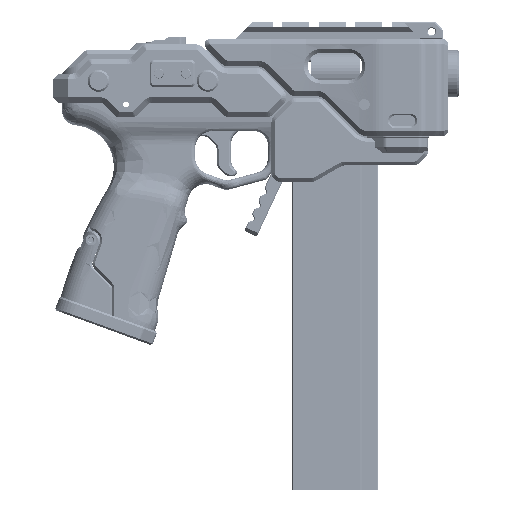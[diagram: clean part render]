
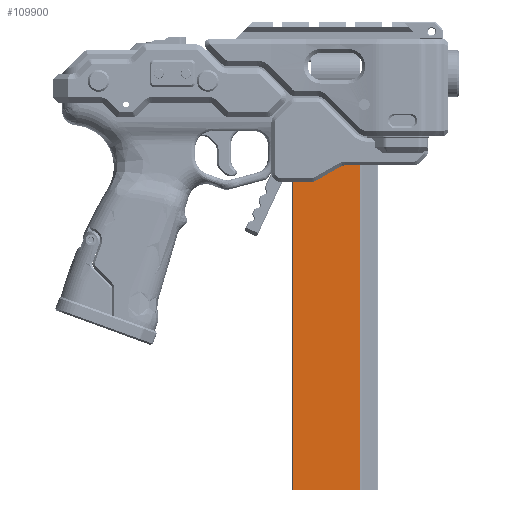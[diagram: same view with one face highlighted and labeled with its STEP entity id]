
A CAD part, left-side view. The second image highlights one B-rep face of the part: STEP entity #109900.
In plain terms, the highlighted planar face has unit normal (-1, 0, 0).
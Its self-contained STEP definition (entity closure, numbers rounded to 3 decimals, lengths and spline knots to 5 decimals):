
#4856=CIRCLE('',#118757,0.00508);
#18416=ORIENTED_EDGE('',*,*,#46447,.F.);
#18417=ORIENTED_EDGE('',*,*,#46425,.T.);
#18418=ORIENTED_EDGE('',*,*,#46446,.F.);
#18419=ORIENTED_EDGE('',*,*,#46420,.T.);
#18420=ORIENTED_EDGE('',*,*,#46445,.F.);
#18421=ORIENTED_EDGE('',*,*,#46443,.F.);
#18422=ORIENTED_EDGE('',*,*,#46441,.F.);
#18423=ORIENTED_EDGE('',*,*,#46440,.F.);
#18424=ORIENTED_EDGE('',*,*,#46439,.F.);
#18425=ORIENTED_EDGE('',*,*,#46450,.F.);
#46420=EDGE_CURVE('',#61015,#61014,#71185,.T.);
#46425=EDGE_CURVE('',#61020,#61019,#71189,.T.);
#46439=EDGE_CURVE('',#61026,#61006,#71200,.T.);
#46440=EDGE_CURVE('',#61006,#61001,#71201,.T.);
#46441=EDGE_CURVE('',#61001,#61027,#71202,.T.);
#46443=EDGE_CURVE('',#61027,#61028,#71204,.T.);
#46445=EDGE_CURVE('',#61028,#61014,#71205,.T.);
#46446=EDGE_CURVE('',#61015,#61019,#71206,.T.);
#46447=EDGE_CURVE('',#61020,#61029,#71207,.T.);
#46450=EDGE_CURVE('',#61029,#61026,#4856,.T.);
#61001=VERTEX_POINT('',#187533);
#61006=VERTEX_POINT('',#187548);
#61014=VERTEX_POINT('',#187578);
#61015=VERTEX_POINT('',#187580);
#61019=VERTEX_POINT('',#187589);
#61020=VERTEX_POINT('',#187591);
#61026=VERTEX_POINT('',#187618);
#61027=VERTEX_POINT('',#187624);
#61028=VERTEX_POINT('',#187628);
#61029=VERTEX_POINT('',#187636);
#71185=LINE('',#187579,#81551);
#71189=LINE('',#187590,#81555);
#71200=LINE('',#187619,#81566);
#71201=LINE('',#187621,#81567);
#71202=LINE('',#187623,#81568);
#71204=LINE('',#187627,#81570);
#71205=LINE('',#187631,#81571);
#71206=LINE('',#187633,#81572);
#71207=LINE('',#187635,#81573);
#81551=VECTOR('',#134903,1.);
#81555=VECTOR('',#134911,1.);
#81566=VECTOR('',#134936,1.);
#81567=VECTOR('',#134939,1.);
#81568=VECTOR('',#134942,1.);
#81570=VECTOR('',#134946,1.);
#81571=VECTOR('',#134951,1.);
#81572=VECTOR('',#134954,1.);
#81573=VECTOR('',#134957,1.);
#91325=EDGE_LOOP('',(#18416,#18417,#18418,#18419,#18420,#18421,#18422,#18423,
#18424,#18425));
#98975=FACE_BOUND('',#91325,.T.);
#105470=PLANE('',#118758);
#109900=ADVANCED_FACE('',(#98975),#105470,.F.);
#118757=AXIS2_PLACEMENT_3D('',#187653,#134960,#134961);
#118758=AXIS2_PLACEMENT_3D('',#187654,#134962,#134963);
#134903=DIRECTION('',(0.,0.,-1.));
#134911=DIRECTION('',(0.,0.,1.));
#134936=DIRECTION('',(0.,0.,1.));
#134939=DIRECTION('',(0.,0.,1.));
#134942=DIRECTION('',(0.,-1.,0.));
#134946=DIRECTION('',(0.,0.,-1.));
#134951=DIRECTION('',(0.,1.,0.));
#134954=DIRECTION('',(0.,1.,0.));
#134957=DIRECTION('',(0.,1.,0.));
#134960=DIRECTION('',(1.,0.,0.));
#134961=DIRECTION('',(0.,0.,-1.));
#134962=DIRECTION('',(1.,0.,0.));
#134963=DIRECTION('',(0.,0.,-1.));
#187533=CARTESIAN_POINT('',(-0.00988,-0.0055,-0.04175));
#187548=CARTESIAN_POINT('',(-0.00988,-0.0055,-0.06875));
#187578=CARTESIAN_POINT('',(-0.00988,-0.04516,-0.07825));
#187579=CARTESIAN_POINT('',(-0.00988,-0.04516,-0.07875));
#187580=CARTESIAN_POINT('',(-0.00988,-0.04516,-0.07675));
#187589=CARTESIAN_POINT('',(-0.00988,-0.04016,-0.07675));
#187590=CARTESIAN_POINT('',(-0.00988,-0.04016,-0.07875));
#187591=CARTESIAN_POINT('',(-0.00988,-0.04016,-0.07825));
#187618=CARTESIAN_POINT('',(-0.00988,-0.0055,-0.07367));
#187619=CARTESIAN_POINT('',(-0.00988,-0.0055,-0.03175));
#187621=CARTESIAN_POINT('',(-0.00988,-0.0055,-0.03175));
#187623=CARTESIAN_POINT('',(-0.00988,-0.0055,-0.04175));
#187624=CARTESIAN_POINT('',(-0.00987,-0.2305,-0.04175));
#187627=CARTESIAN_POINT('',(-0.00987,-0.2305,-0.03175));
#187628=CARTESIAN_POINT('',(-0.00988,-0.2305,-0.07825));
#187631=CARTESIAN_POINT('',(-0.00988,-0.0055,-0.07825));
#187633=CARTESIAN_POINT('',(-0.00988,-0.0055,-0.07675));
#187635=CARTESIAN_POINT('',(-0.00988,-0.0055,-0.07825));
#187636=CARTESIAN_POINT('',(-0.00988,-0.00839,-0.07825));
#187653=CARTESIAN_POINT('',(-0.00988,-0.01058,-0.07367));
#187654=CARTESIAN_POINT('',(-0.00988,-0.0055,-0.03175));
